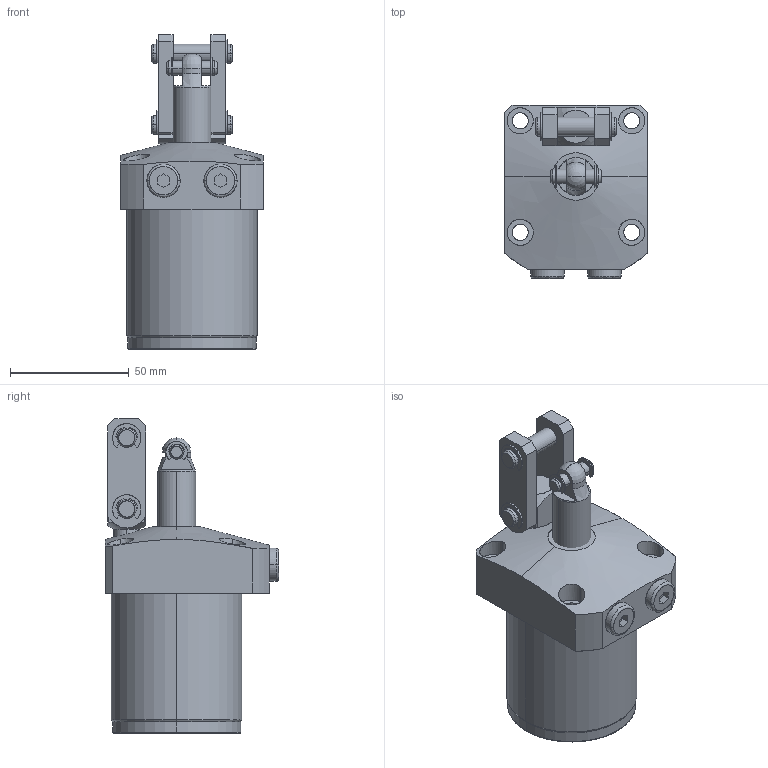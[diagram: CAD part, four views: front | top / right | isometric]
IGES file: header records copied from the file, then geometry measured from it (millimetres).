
Start section: SolidWorks IGES file using analytic representation for surfaces
Global section: file name: C:\Documents and Settings\nijil\My Documents\Clasys1\LQ Series\55\0401-0201.IGS; native system: SolidWorks 2010; preprocessor: SolidWorks 2010; author: nijil; date: 130723.125808; units: millimetre
Bounding box: 60 x 73 x 132.5 mm (x, y, z)
Surface area: 35595.1 mm2 (no closed solid volume)
Topology: 0 solids, 0 shells, 279 faces, 4445 edges, 4440 vertices
Faces by surface type: revolution 157, bspline 122
